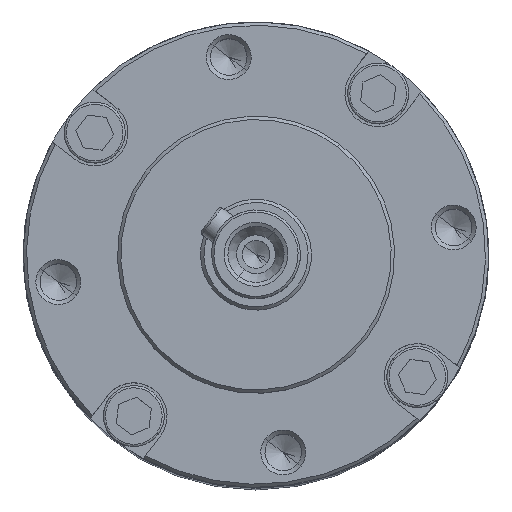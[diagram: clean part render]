
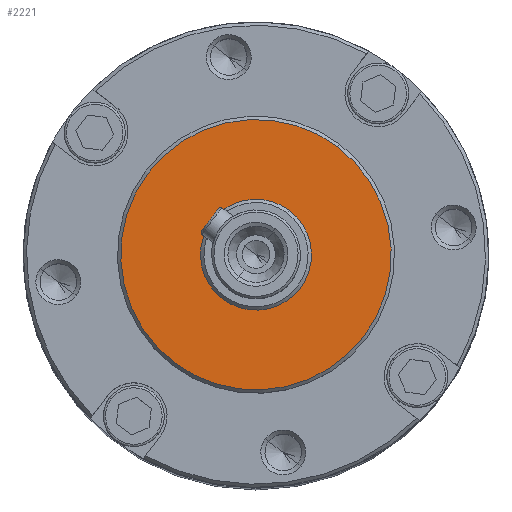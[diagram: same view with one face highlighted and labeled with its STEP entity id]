
A CAD part, top view. The second image highlights one B-rep face of the part: STEP entity #2221.
In plain terms, the highlighted planar face has unit normal (0, 0, 1) as drawn and (0, 1, 0) by its records, which use the part's own axes.
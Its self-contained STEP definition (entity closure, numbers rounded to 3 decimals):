
#64 = CIRCLE ( 'NONE', #1692, 12.2 ) ;
#90 = VERTEX_POINT ( 'NONE', #1162 ) ;
#97 = FACE_BOUND ( 'NONE', #4058, .T. ) ;
#506 = ORIENTED_EDGE ( 'NONE', *, *, #3523, .T. ) ;
#779 = CIRCLE ( 'NONE', #857, 12.2 ) ;
#857 = AXIS2_PLACEMENT_3D ( 'NONE', #3663, #880, #3249 ) ;
#880 = DIRECTION ( 'NONE',  ( 0., -1., 0. ) ) ;
#911 = EDGE_CURVE ( 'NONE', #90, #1157, #3519, .T. ) ;
#957 = DIRECTION ( 'NONE',  ( 1., 0., 0. ) ) ;
#1157 = VERTEX_POINT ( 'NONE', #4722 ) ;
#1162 = CARTESIAN_POINT ( 'NONE',  ( 0., 13.2, -5. ) ) ;
#1174 = DIRECTION ( 'NONE',  ( 0., 0., 1. ) ) ;
#1257 = DIRECTION ( 'NONE',  ( 0., 0., -1. ) ) ;
#1379 = CARTESIAN_POINT ( 'NONE',  ( 0., 13.2, 0. ) ) ;
#1401 = CARTESIAN_POINT ( 'NONE',  ( 0., 13.2, 0. ) ) ;
#1419 = ORIENTED_EDGE ( 'NONE', *, *, #4259, .F. ) ;
#1534 = AXIS2_PLACEMENT_3D ( 'NONE', #4034, #4330, #1257 ) ;
#1551 = CARTESIAN_POINT ( 'NONE',  ( 12.2, 13.2, 0. ) ) ;
#1587 = ORIENTED_EDGE ( 'NONE', *, *, #2784, .F. ) ;
#1644 = CARTESIAN_POINT ( 'NONE',  ( 0., 13.2, 0. ) ) ;
#1669 = VERTEX_POINT ( 'NONE', #1551 ) ;
#1692 = AXIS2_PLACEMENT_3D ( 'NONE', #1379, #2888, #957 ) ;
#1875 = AXIS2_PLACEMENT_3D ( 'NONE', #1401, #3767, #4123 ) ;
#2221 = ADVANCED_FACE ( 'NONE', ( #97, #2405 ), #2797, .T. ) ;
#2405 = FACE_OUTER_BOUND ( 'NONE', #4353, .T. ) ;
#2480 = ORIENTED_EDGE ( 'NONE', *, *, #911, .T. ) ;
#2784 = EDGE_CURVE ( 'NONE', #3496, #1669, #779, .T. ) ;
#2797 = PLANE ( 'NONE',  #2832 ) ;
#2832 = AXIS2_PLACEMENT_3D ( 'NONE', #1644, #3133, #1174 ) ;
#2888 = DIRECTION ( 'NONE',  ( 0., -1., 0. ) ) ;
#3133 = DIRECTION ( 'NONE',  ( 0., 1., 0. ) ) ;
#3249 = DIRECTION ( 'NONE',  ( 1., 0., 0. ) ) ;
#3253 = CIRCLE ( 'NONE', #1534, 5. ) ;
#3496 = VERTEX_POINT ( 'NONE', #4744 ) ;
#3519 = CIRCLE ( 'NONE', #1875, 5. ) ;
#3523 = EDGE_CURVE ( 'NONE', #1157, #90, #3253, .T. ) ;
#3663 = CARTESIAN_POINT ( 'NONE',  ( 0., 13.2, 0. ) ) ;
#3767 = DIRECTION ( 'NONE',  ( 0., -1., 0. ) ) ;
#4034 = CARTESIAN_POINT ( 'NONE',  ( 0., 13.2, 0. ) ) ;
#4058 = EDGE_LOOP ( 'NONE', ( #2480, #506 ) ) ;
#4123 = DIRECTION ( 'NONE',  ( 0., 0., -1. ) ) ;
#4259 = EDGE_CURVE ( 'NONE', #1669, #3496, #64, .T. ) ;
#4330 = DIRECTION ( 'NONE',  ( 0., -1., 0. ) ) ;
#4353 = EDGE_LOOP ( 'NONE', ( #1419, #1587 ) ) ;
#4722 = CARTESIAN_POINT ( 'NONE',  ( 0., 13.2, 5. ) ) ;
#4744 = CARTESIAN_POINT ( 'NONE',  ( -12.2, 13.2, 0. ) ) ;
